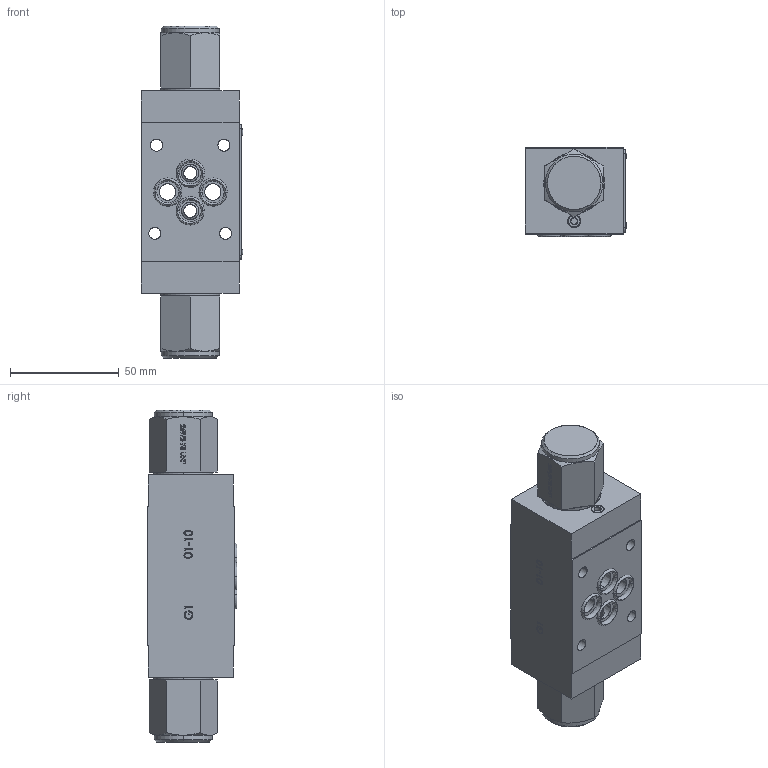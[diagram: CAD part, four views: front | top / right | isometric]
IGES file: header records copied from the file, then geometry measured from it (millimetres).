
Start section: SolidWorks IGES file using analytic representation for surfaces
Global section: file name: C:\Users\pc-te25\Desktop\369-2-AB-03.IGS; native system: SolidWorks 2018; preprocessor: SolidWorks 2018; author: pc-te25; date: 191203.115619; units: millimetre
Bounding box: 46.66 x 41.1 x 152.6 mm (x, y, z)
Surface area: 34971.6 mm2 (no closed solid volume)
Topology: 0 solids, 0 shells, 799 faces, 15270 edges, 15268 vertices
Faces by surface type: bspline 662, revolution 137
